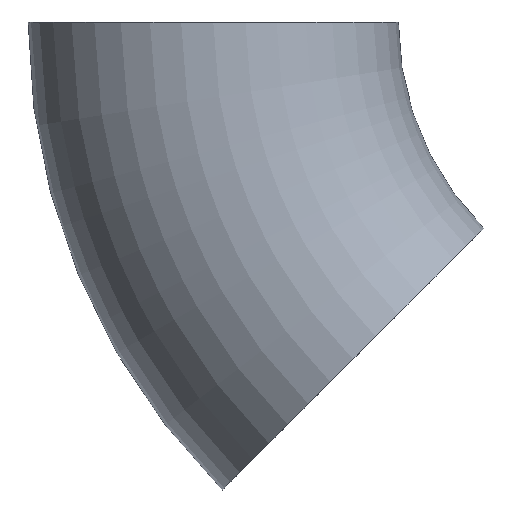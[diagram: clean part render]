
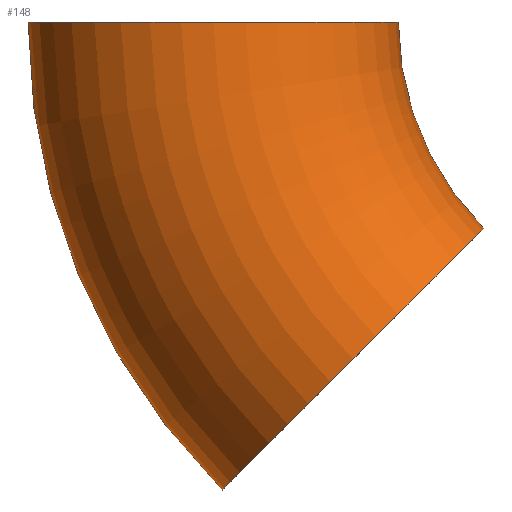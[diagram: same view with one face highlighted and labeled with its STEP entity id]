
A CAD part, front view. The second image highlights one B-rep face of the part: STEP entity #148.
In plain terms, the highlighted toroidal (fillet/blend) face has major radius 114.5 mm and minor radius 44.45 mm.
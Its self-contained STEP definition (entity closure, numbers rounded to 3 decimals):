
#7 = VERTEX_POINT ( 'NONE', #88 ) ;
#9 = DIRECTION ( 'NONE',  ( 0., 1., 0. ) ) ;
#15 = ORIENTED_EDGE ( 'NONE', *, *, #202, .F. ) ;
#18 = ORIENTED_EDGE ( 'NONE', *, *, #250, .F. ) ;
#19 = AXIS2_PLACEMENT_3D ( 'NONE', #172, #9, #132 ) ;
#22 = CARTESIAN_POINT ( 'NONE',  ( -80.964, 0., -80.964 ) ) ;
#31 = CIRCLE ( 'NONE', #83, 44.45 ) ;
#34 = DIRECTION ( 'NONE',  ( 0., 0., 1. ) ) ;
#44 = EDGE_CURVE ( 'NONE', #63, #7, #157, .T. ) ;
#54 = TOROIDAL_SURFACE ( 'NONE', #19, 114.5, 44.45 ) ;
#63 = VERTEX_POINT ( 'NONE', #166 ) ;
#64 = ORIENTED_EDGE ( 'NONE', *, *, #124, .T. ) ;
#66 = CARTESIAN_POINT ( 'NONE',  ( 0., 0., 0. ) ) ;
#68 = DIRECTION ( 'NONE',  ( -0.707, 0., 0.707 ) ) ;
#73 = DIRECTION ( 'NONE',  ( 0., 0., 1. ) ) ;
#83 = AXIS2_PLACEMENT_3D ( 'NONE', #106, #34, #114 ) ;
#88 = CARTESIAN_POINT ( 'NONE',  ( -70.05, 0., 0. ) ) ;
#90 = CARTESIAN_POINT ( 'NONE',  ( -112.395, 0., -112.395 ) ) ;
#106 = CARTESIAN_POINT ( 'NONE',  ( -114.5, 0., 0. ) ) ;
#114 = DIRECTION ( 'NONE',  ( 1., 0., 0. ) ) ;
#124 = EDGE_CURVE ( 'NONE', #167, #63, #240, .T. ) ;
#132 = DIRECTION ( 'NONE',  ( 0., 0., 1. ) ) ;
#143 = VERTEX_POINT ( 'NONE', #228 ) ;
#148 = ADVANCED_FACE ( 'NONE', ( #251 ), #54, .T. ) ;
#151 = CIRCLE ( 'NONE', #247, 158.95 ) ;
#157 = CIRCLE ( 'NONE', #227, 70.05 ) ;
#166 = CARTESIAN_POINT ( 'NONE',  ( -49.533, 0., -49.533 ) ) ;
#167 = VERTEX_POINT ( 'NONE', #90 ) ;
#172 = CARTESIAN_POINT ( 'NONE',  ( 0., 0., 0. ) ) ;
#182 = DIRECTION ( 'NONE',  ( 0., 0., 1. ) ) ;
#184 = EDGE_LOOP ( 'NONE', ( #15, #64, #218, #18 ) ) ;
#202 = EDGE_CURVE ( 'NONE', #167, #143, #151, .T. ) ;
#204 = CARTESIAN_POINT ( 'NONE',  ( 0., 0., 0. ) ) ;
#218 = ORIENTED_EDGE ( 'NONE', *, *, #44, .T. ) ;
#220 = DIRECTION ( 'NONE',  ( 0.707, 0., 0.707 ) ) ;
#226 = AXIS2_PLACEMENT_3D ( 'NONE', #22, #68, #220 ) ;
#227 = AXIS2_PLACEMENT_3D ( 'NONE', #66, #238, #182 ) ;
#228 = CARTESIAN_POINT ( 'NONE',  ( -158.95, 0., 0. ) ) ;
#238 = DIRECTION ( 'NONE',  ( 0., 1., 0. ) ) ;
#240 = CIRCLE ( 'NONE', #226, 44.45 ) ;
#245 = DIRECTION ( 'NONE',  ( 0., 1., 0. ) ) ;
#247 = AXIS2_PLACEMENT_3D ( 'NONE', #204, #245, #73 ) ;
#250 = EDGE_CURVE ( 'NONE', #143, #7, #31, .T. ) ;
#251 = FACE_OUTER_BOUND ( 'NONE', #184, .T. ) ;
